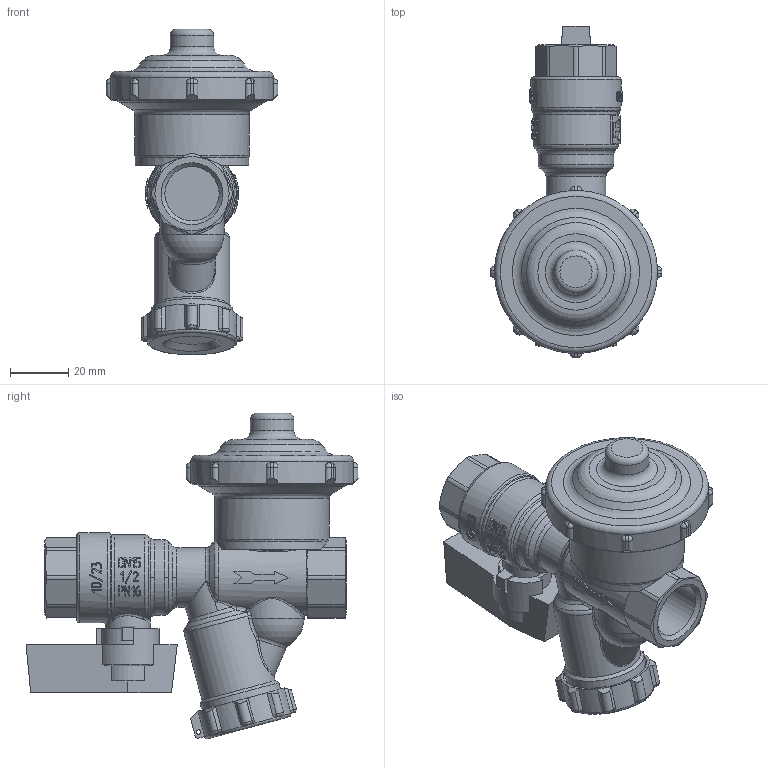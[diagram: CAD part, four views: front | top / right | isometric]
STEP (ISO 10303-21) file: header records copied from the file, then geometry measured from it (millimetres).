
FILE_DESCRIPTION(('STEP AP203'), '1');
FILE_NAME('覆.493612.002.000 捘 - VT.300.N.04', '', ('UNSPECIFIED'), ('UNSPECIFIED'), 'C3D Converter', 'C3D Toolkit', '');
FILE_SCHEMA(('CONFIG_CONTROL_DESIGN'));
Length unit declared in the file: millimetre
Products named in the file (1): ВР.493612.002.000 СБ
Bounding box: 59 x 114.1 x 111.87 mm (x, y, z)
Volume: 149217.8 mm3; surface area: 29009.8 mm2
Topology: 1 solids, 7 shells, 999 faces, 2673 edges, 1717 vertices
Faces by surface type: plane 347, extrusion 328, cylinder 177, bspline 49, torus 46, cone 35, sphere 17
Full cylindrical faces by diameter (mm): 1.5 x1, 2 x1, 7.5 x1, 10.5 x1, 15 x1, 15.5 x1, 18.632 x2, 20.5 x1, 26 x2, 28 x1, 31 x1, 39.3 x1, 56 x1
Entity records: 47471 total; most frequent: CARTESIAN_POINT 25109, ORIENTED_EDGE 5234, DIRECTION 3460, EDGE_CURVE 2617, VERTEX_POINT 1717, B_SPLINE_CURVE_WITH_KNOTS 1336, VECTOR 1312, EDGE_LOOP 1086
